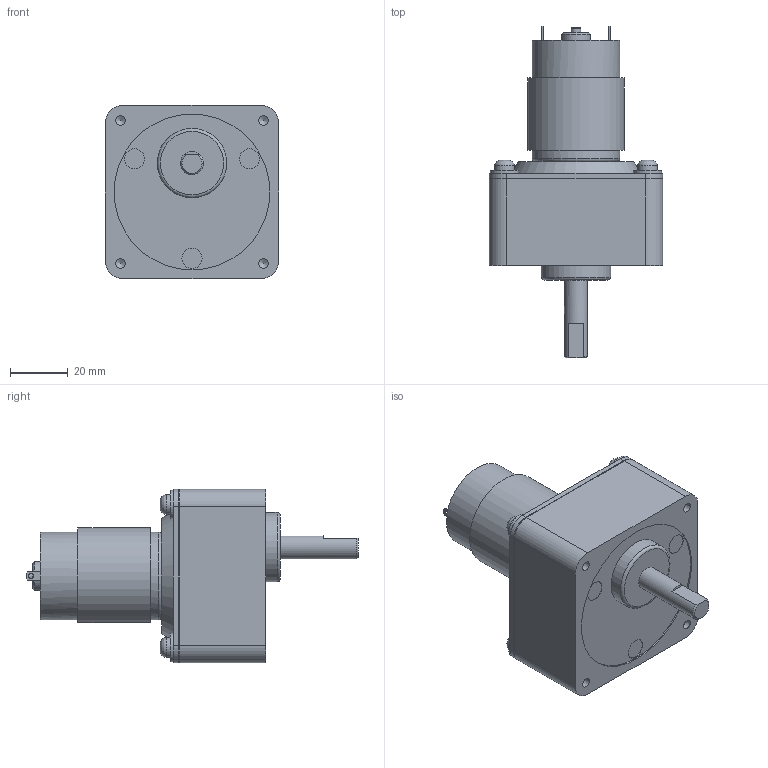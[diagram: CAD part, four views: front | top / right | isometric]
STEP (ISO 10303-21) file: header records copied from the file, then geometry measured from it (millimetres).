
FILE_DESCRIPTION(/* description */ (''),/* implementation_level */ '2;1');
FILE_NAME(/* name */ 'TP-3442#-CM-2.stp',/* time_stamp */ '2023-10-26T12:00:47+09:00',/* author */ ('user'),/* organization */ (''),/* preprocessor_version */ 'ST-DEVELOPER v19.2',/* originating_system */ 'Autodesk Inventor 2024',/* authorisation */ '');
FILE_SCHEMA (('AUTOMOTIVE_DESIGN { 1 0 10303 214 3 1 1 }'));
Length unit declared in the file: millimetre
Products named in the file (3): TP-3442#-CM-5~12.5-J00-24; cm_2; TP-3442#(RS-435PV)
Assembly tree (2 placements, depth 2):
  TP-3442#-CM-5~12.5-J00-24
    cm_2
    TP-3442#(RS-435PV)
Bounding box: 60 x 115 x 60 mm (x, y, z)
Volume: 157108.5 mm3; surface area: 23295.2 mm2
Topology: 2 solids, 2 shells, 182 faces, 407 edges, 266 vertices
Faces by surface type: plane 89, cylinder 69, cone 10, torus 10, bspline 4
Full cylindrical faces by diameter (mm): 1.5 x1, 2 x2, 2.459 x2, 2.5 x1, 2.6 x4, 3.17 x2, 3.242 x4, 6.8 x4, 7 x3, 8 x2, 8.3 x1, 9.8 x4, 9.9 x1, 10 x1, 24 x1, 29.4 x1, 30.4 x1, 54 x1
Entity records: 5367 total; most frequent: CARTESIAN_POINT 962, DIRECTION 952, ORIENTED_EDGE 802, EDGE_CURVE 401, AXIS2_PLACEMENT_3D 370, VERTEX_POINT 266, EDGE_LOOP 229, LINE 212
